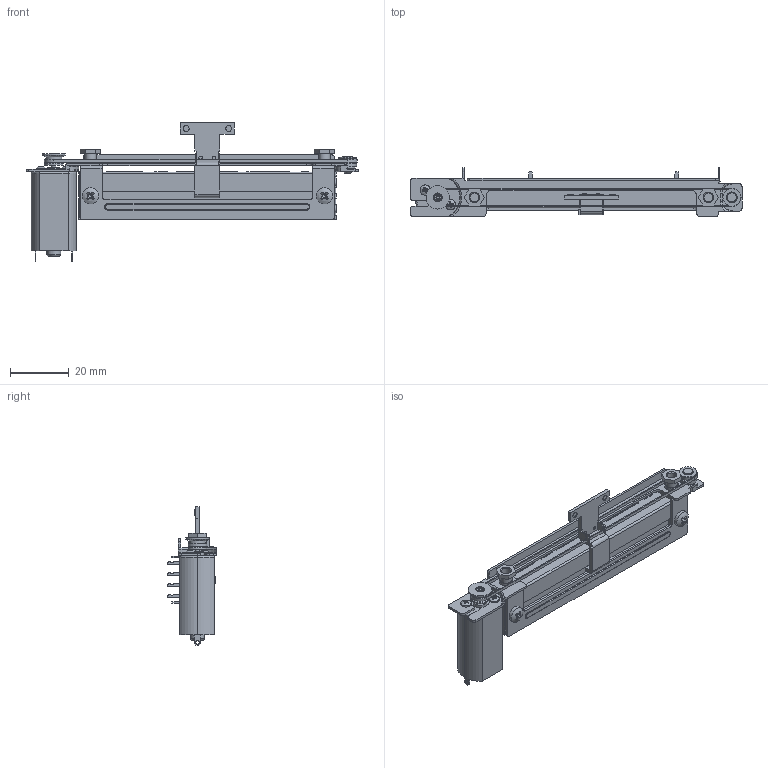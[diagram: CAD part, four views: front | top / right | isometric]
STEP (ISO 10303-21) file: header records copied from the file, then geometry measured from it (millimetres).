
FILE_DESCRIPTION(('FreeCAD Model'),'2;1');
FILE_NAME('Open CASCADE Shape Model','2023-03-16T10:47:08',(''),(''), 'Open CASCADE STEP processor 7.6','FreeCAD','Unknown');
FILE_SCHEMA(('AUTOMOTIVE_DESIGN { 1 0 10303 214 1 1 1 1 }'));
Length unit declared in the file: millimetre
Products named in the file (1): Fusion001034
Bounding box: 113.5 x 16.7 x 47.4 mm (x, y, z)
Volume: 19022.2 mm3; surface area: 12383.4 mm2
Topology: 1 solids, 18 shells, 1187 faces, 3045 edges, 1931 vertices
Faces by surface type: plane 772, cylinder 322, cone 43, torus 43, sphere 4, bspline 3
Full cylindrical faces by diameter (mm): 0.5 x24, 1.2 x6, 1.25 x2, 1.3 x1, 1.5 x9, 1.7 x8, 2 x9, 2.5 x2, 3 x14, 3.2 x2, 3.5 x4, 3.7 x1, 4 x4, 4.5 x2, 4.7 x2, 5 x2, 5.38 x1, 5.6 x2, 6 x2, 6.5 x1, 8 x1
Entity records: 81854 total; most frequent: CARTESIAN_POINT 18380, DIRECTION 10272, ORIENTED_EDGE 6086, PCURVE 6082, DEFINITIONAL_REPRESENTATION 6082, LINE 5620, VECTOR 5620, EDGE_CURVE 3041
